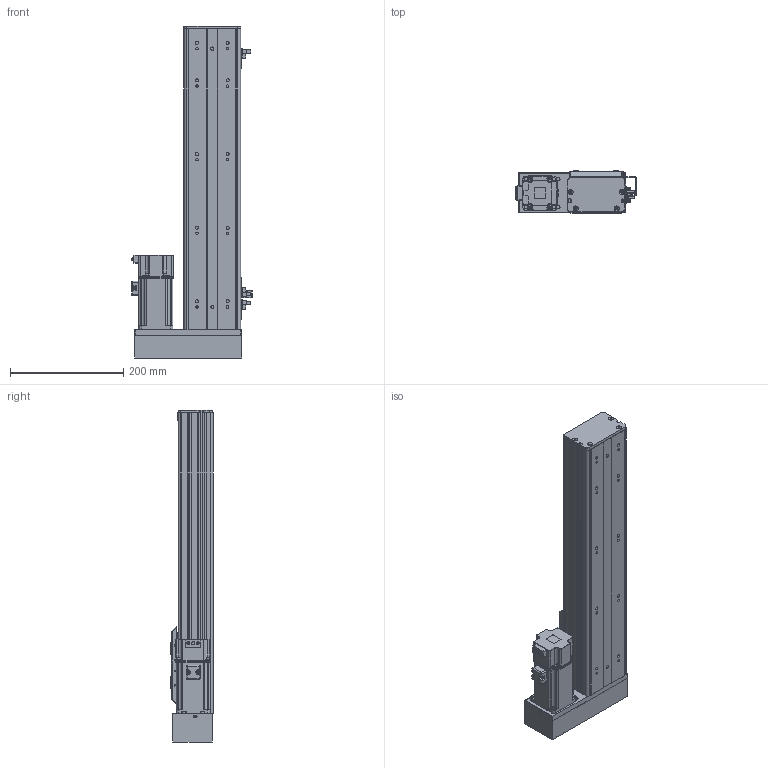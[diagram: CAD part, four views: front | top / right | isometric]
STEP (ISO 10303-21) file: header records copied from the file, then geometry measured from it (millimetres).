
FILE_DESCRIPTION (( 'STEP AP203' ), '1' );
FILE_NAME ('BOSW100-350-1610-1P-RM-M400W-O-S3（方程式2016）.step', '2020-10-10T07:16:24', ( '' ), ( '' ), 'SwSTEP 2.0', 'SolidWorks 2016', '' );
FILE_SCHEMA (( 'CONFIG_CONTROL_DESIGN' ));
Length unit declared in the file: millimetre
Products named in the file (14): AIMS(W)-100-LM&RM-肮祭謫欶; BOSW-100-綴裔啣; 俋境嫖覜嘐隅啣; BOSW&TW-100-俋离覜茼え; S400W(SMA-L040); BOSW-100-1P-DM-宽轨-侧板-350客户图纸; BOSW&TW-100-1P-賑雄釱欶; BOSW-100-1P-DM-350諦誧芞; boS-100-LM&RM-三菱M400W马达板-宽轨; BOSW&TW-100-詩湍揤沭(陔賦凳); BOSW-100-1P-DM-宽轨-钢带-350客户图纸; 放大器内置U型微型光电传感器PM-L65; 新结构AIMSW-100-1P-宽&高轨共用-滑动座上组件; BOSW100-350-1610-1P-RM-M400W-O-S3（方程式2016）
Assembly tree (19 placements, depth 2):
  BOSW100-350-1610-1P-RM-M400W-O-S3（方程式2016）
    BOSW-100-1P-DM-350諦誧芞
    BOSW-100-綴裔啣
    新结构AIMSW-100-1P-宽&高轨共用-滑动座上组件
    S400W(SMA-L040)
    BOSW&TW-100-詩湍揤沭(陔賦凳)  x2
    BOSW&TW-100-1P-賑雄釱欶
    BOSW-100-1P-DM-宽轨-侧板-350客户图纸  x2
    BOSW-100-1P-DM-宽轨-钢带-350客户图纸
    AIMS(W)-100-LM&RM-肮祭謫欶
    boS-100-LM&RM-三菱M400W马达板-宽轨
    俋境嫖覜嘐隅啣  x3
    放大器内置U型微型光电传感器PM-L65  x3
    BOSW&TW-100-俋离覜茼え
Bounding box: 213.4 x 75 x 586 mm (x, y, z)
Volume: 1445430.8 mm3; surface area: 705163.3 mm2
Topology: 19 solids, 20 shells, 2507 faces, 6609 edges, 4215 vertices
Faces by surface type: plane 1239, cylinder 782, bspline 271, cone 167, torus 36, sphere 12
Entity records: 68576 total; most frequent: CARTESIAN_POINT 20626, ORIENTED_EDGE 9758, DIRECTION 9435, EDGE_CURVE 4879, AXIS2_PLACEMENT_3D 3335, VERTEX_POINT 3117, LINE 2765, VECTOR 2765
